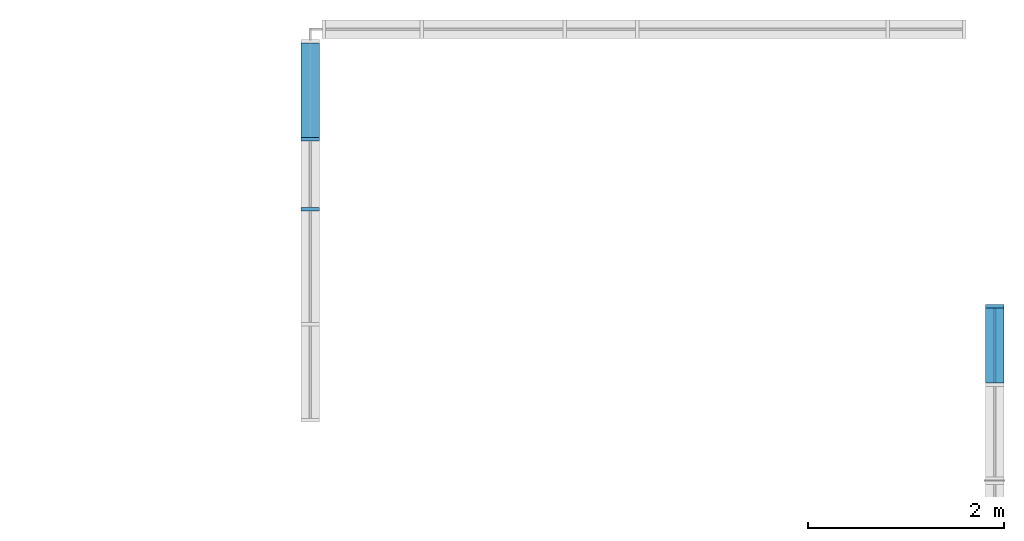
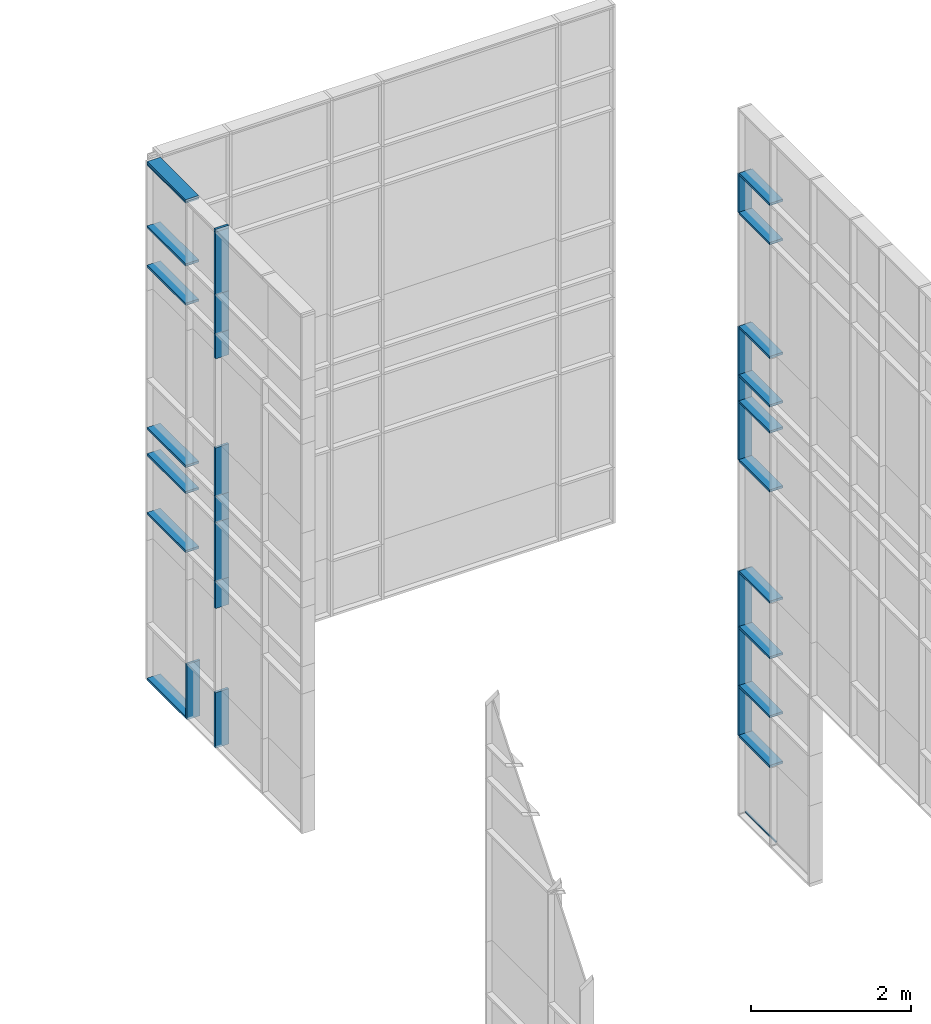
# One storey, part 18 of 73: 36 members, 2 elements without a shape of their own.
"""IFC2X3 building model written with IfcOpenShell, lengths in millimetres."""

from ifc_helpers import new_model, entity, si_unit, converted_unit, derived_unit, direction, frame, origin, origin_2d_with_axis, place, context, subcontext, project, spatial, rectangle, extrude, source, transform, mapped, material, type_object, type_shapes, element, aggregate, save


model = new_model("IFC2X3")

# Units and contexts
model_context = context("Model", 3, precision=0.01, world=origin(), true_north=direction((6.12303176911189e-17, 1.0)))
body_context = subcontext(model_context, "Body", "Model", "MODEL_VIEW")
ifc_project = project(units=[si_unit("LENGTHUNIT", "METRE", prefix="MILLI"), si_unit("AREAUNIT", "SQUARE_METRE"), si_unit("VOLUMEUNIT", "CUBIC_METRE"), converted_unit("PLANEANGLEUNIT", "DEGREE", entity("IfcRatioMeasure", 0.0174532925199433), si_unit("PLANEANGLEUNIT", "RADIAN"), dimensions=[0, 0, 0, 0, 0, 0, 0]), si_unit("MASSUNIT", "GRAM", prefix="KILO"), derived_unit("MASSDENSITYUNIT", [(si_unit("MASSUNIT", "GRAM", prefix="KILO"), 1), (si_unit("LENGTHUNIT", "METRE"), -3)]), si_unit("TIMEUNIT", "SECOND"), si_unit("FREQUENCYUNIT", "HERTZ"), si_unit("THERMODYNAMICTEMPERATUREUNIT", "DEGREE_CELSIUS"), derived_unit("THERMALTRANSMITTANCEUNIT", [(si_unit("MASSUNIT", "GRAM", prefix="KILO"), 1), (si_unit("THERMODYNAMICTEMPERATUREUNIT", "KELVIN"), -1), (si_unit("TIMEUNIT", "SECOND"), -3)]), derived_unit("VOLUMETRICFLOWRATEUNIT", [(si_unit("LENGTHUNIT", "METRE"), 3), (si_unit("TIMEUNIT", "SECOND"), -1)]), si_unit("ELECTRICCURRENTUNIT", "AMPERE"), si_unit("ELECTRICVOLTAGEUNIT", "VOLT"), si_unit("POWERUNIT", "WATT"), si_unit("FORCEUNIT", "NEWTON", prefix="KILO"), si_unit("ILLUMINANCEUNIT", "LUX"), si_unit("LUMINOUSFLUXUNIT", "LUMEN"), si_unit("LUMINOUSINTENSITYUNIT", "CANDELA"), derived_unit("USERDEFINED", [(si_unit("MASSUNIT", "GRAM", prefix="KILO"), -1), (si_unit("LENGTHUNIT", "METRE"), -2), (si_unit("TIMEUNIT", "SECOND"), 3), (si_unit("LUMINOUSFLUXUNIT", "LUMEN"), 1)]), derived_unit("LINEARVELOCITYUNIT", [(si_unit("LENGTHUNIT", "METRE"), 1), (si_unit("TIMEUNIT", "SECOND"), -1)]), si_unit("PRESSUREUNIT", "PASCAL"), derived_unit("USERDEFINED", [(si_unit("LENGTHUNIT", "METRE"), -2), (si_unit("MASSUNIT", "GRAM", prefix="KILO"), 1), (si_unit("TIMEUNIT", "SECOND"), -2)])], contexts=[model_context])

# Site, building, storey
site_placement = place(None, frame((-151.875543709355, 2715.0, 0.0)))
site = spatial("IfcSite", under=ifc_project, at=site_placement, Name="Surface", CompositionType="ELEMENT")
building_placement = place(site_placement, origin())
building = spatial("IfcBuilding", under=site, at=building_placement, CompositionType="ELEMENT")
storey_placement = place(building_placement, frame((0.0, 0.0, 6730.43000000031)))
storey = spatial("IfcBuildingStorey", under=building, at=storey_placement, Name="3 korrus", CompositionType="ELEMENT", Elevation=6730.43000000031)

# Curtain wall, members
curtain_wall_type_1 = type_object("IfcCurtainWallType", Name="Curtain Wall:Klaasfassaad", PredefinedType="NOTDEFINED")
curtain_wall_1_placement = place(storey_placement, frame((0.0, 0.0, -6730.43000000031)))
curtain_wall_1 = element("IfcCurtainWall", 1, at=curtain_wall_1_placement, inside=storey, type_object=curtain_wall_type_1, Name="Curtain Wall:Klaasfassaad", ObjectType="Curtain Wall:Klaasfassaad")
ifc_material_1 = material(Name="Steel/Aluminium")
member_type_1 = type_object("IfcMemberType", Name="35 x 190mm", PredefinedType="MEMBER")
shared_shape_1 = source(origin(), body_context, "Body", "SweptSolid", [
    extrude(rectangle(XDim=190.0, YDim=35.0, at=origin_2d_with_axis()), frame((-17.5, 0.0, -600.0), z_axis=(0.0, 0.0, 1.0), x_axis=(0.0, -1.0, 0.0)), (0.0, 0.0, 1.0), 599.999999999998),
])
type_shapes(member_type_1, [shared_shape_1])
member_1_placement = place(storey_placement, frame((38701.6162681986, 23810.5004565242, 3474.47692901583), z_axis=(0.0, 0.0, -1.0), x_axis=(0.0, 1.0, 0.0)))
member_1 = element("IfcMember", 2, at=member_1_placement, type_object=member_type_1, material=ifc_material_1, Name="Rectangular Mullion:35 x 190mm", ObjectType="35 x 190mm", context=body_context, shape_type="MappedRepresentation", body=[
    mapped(shared_shape_1, transform((0.0, 0.0, 0.0), scale=1.0)),
])
member_type_2 = type_object("IfcMemberType", Name="35 x 190mm", PredefinedType="MEMBER")
shared_shape_2 = source(origin(), body_context, "Body", "SweptSolid", [
    extrude(rectangle(XDim=190.0, YDim=35.0, at=origin_2d_with_axis()), frame((-17.5, 0.0, -740.0), z_axis=(0.0, 0.0, 1.0), x_axis=(0.0, -1.0, 0.0)), (0.0, 0.0, 1.0), 740.000000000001),
])
type_shapes(member_type_2, [shared_shape_2])
member_2_placement = place(storey_placement, frame((38701.6162681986, 23810.5004565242, 994.476929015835), z_axis=(0.0, 0.0, -1.0), x_axis=(0.0, 1.0, 0.0)))
member_2 = element("IfcMember", 3, at=member_2_placement, type_object=member_type_2, material=ifc_material_1, Name="Rectangular Mullion:35 x 190mm", ObjectType="35 x 190mm", context=body_context, shape_type="MappedRepresentation", body=[
    mapped(shared_shape_2, transform((0.0, 0.0, 0.0), scale=1.0)),
])
member_type_3 = type_object("IfcMemberType", Name="35 x 190mm", PredefinedType="MEMBER")
shared_shape_3 = source(origin(), body_context, "Body", "SweptSolid", [
    extrude(rectangle(XDim=190.0, YDim=35.0, at=origin_2d_with_axis()), frame((-17.5, 0.0, -400.0), z_axis=(0.0, 0.0, 1.0), x_axis=(0.0, -1.0, 0.0)), (0.0, 0.0, 1.0), 400.0),
])
type_shapes(member_type_3, [shared_shape_3])
member_3_placement = place(storey_placement, frame((38701.6162681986, 23810.5004565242, 594.476929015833), z_axis=(0.0, 0.0, -1.0), x_axis=(0.0, 1.0, 0.0)))
member_3 = element("IfcMember", 4, at=member_3_placement, type_object=member_type_3, material=ifc_material_1, Name="Rectangular Mullion:35 x 190mm", ObjectType="35 x 190mm", context=body_context, shape_type="MappedRepresentation", body=[
    mapped(shared_shape_3, transform((0.0, 0.0, 0.0), scale=1.0)),
])
member_type_4 = type_object("IfcMemberType", Name="35 x 190mm", PredefinedType="MEMBER")
shared_shape_4 = source(origin(), body_context, "Body", "SweptSolid", [
    extrude(rectangle(XDim=190.0, YDim=35.0, at=origin_2d_with_axis()), frame((-17.5, 0.0, -900.0), z_axis=(0.0, 0.0, 1.0), x_axis=(0.0, -1.0, 0.0)), (0.0, 0.0, 1.0), 900.000000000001),
])
type_shapes(member_type_4, [shared_shape_4])
member_4_placement = place(storey_placement, frame((38701.6162681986, 23810.5004565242, -305.523070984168), z_axis=(0.0, 0.0, -1.0), x_axis=(0.0, 1.0, 0.0)))
member_4 = element("IfcMember", 5, at=member_4_placement, type_object=member_type_4, material=ifc_material_1, Name="Rectangular Mullion:35 x 190mm", ObjectType="35 x 190mm", context=body_context, shape_type="MappedRepresentation", body=[
    mapped(shared_shape_4, transform((0.0, 0.0, 0.0), scale=1.0)),
])
member_5_placement = place(storey_placement, frame((38701.6162681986, 23810.5004565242, -3756.00226032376), z_axis=(0.0, 0.0, -1.0), x_axis=(0.0, 1.0, 0.0)))
member_5 = element("IfcMember", 6, at=member_5_placement, type_object=member_type_4, material=ifc_material_1, Name="Rectangular Mullion:35 x 190mm", ObjectType="35 x 190mm", context=body_context, shape_type="MappedRepresentation", body=[
    mapped(shared_shape_4, transform((0.0, 0.0, 0.0), scale=1.0)),
])
member_type_5 = type_object("IfcMemberType", Name="35 x 190mm", PredefinedType="MEMBER")
shared_shape_5 = source(origin(), body_context, "Body", "SweptSolid", [
    extrude(rectangle(XDim=190.0, YDim=35.0, at=origin_2d_with_axis()), frame((-17.5, 0.0, -850.159729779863), z_axis=(0.0, 0.0, 1.0), x_axis=(0.0, -1.0, 0.0)), (0.0, 0.0, 1.0), 850.159729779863),
])
type_shapes(member_type_5, [shared_shape_5])
member_6_placement = place(storey_placement, frame((38701.6162681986, 23810.5004565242, -2856.00226032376), z_axis=(0.0, 0.0, -1.0), x_axis=(0.0, 1.0, 0.0)))
member_6 = element("IfcMember", 7, at=member_6_placement, type_object=member_type_5, material=ifc_material_1, Name="Rectangular Mullion:35 x 190mm", ObjectType="35 x 190mm", context=body_context, shape_type="MappedRepresentation", body=[
    mapped(shared_shape_5, transform((0.0, 0.0, 0.0), scale=1.0)),
])
member_type_6 = type_object("IfcMemberType", Name="35 x 190mm", PredefinedType="MEMBER")
shared_shape_6 = source(origin(), body_context, "Body", "SweptSolid", [
    extrude(rectangle(XDim=190.0, YDim=35.0, at=origin_2d_with_axis()), frame((0.0, 0.0, -767.50000000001), z_axis=(0.0, 0.0, 1.0), x_axis=(0.0, -1.0, 0.0)), (0.0, 0.0, 1.0), 767.500000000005),
])
type_shapes(member_type_6, [shared_shape_6])
member_7_placement = place(storey_placement, frame((38701.6162681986, 23775.5004565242, 4074.47692901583), z_axis=(0.0, 1.0, 0.0), x_axis=(0.0, 0.0, 1.0)))
member_7 = element("IfcMember", 8, at=member_7_placement, type_object=member_type_6, material=ifc_material_1, Name="Rectangular Mullion:35 x 190mm", ObjectType="35 x 190mm", context=body_context, shape_type="MappedRepresentation", body=[
    mapped(shared_shape_6, transform((0.0, 0.0, 0.0), scale=1.0)),
])
member_type_7 = type_object("IfcMemberType", Name="35 x 190mm", PredefinedType="MEMBER")
shared_shape_7 = source(origin(), body_context, "Body", "SweptSolid", [
    extrude(rectangle(XDim=190.0, YDim=35.0, at=origin_2d_with_axis()), frame((0.0, 0.0, -767.50000000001), z_axis=(0.0, 0.0, 1.0), x_axis=(0.0, -1.0, 0.0)), (0.0, 0.0, 1.0), 767.500000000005),
])
type_shapes(member_type_7, [shared_shape_7])
member_8_placement = place(storey_placement, frame((38701.6162681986, 23775.5004565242, 3474.47692901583), z_axis=(0.0, 1.0, 0.0), x_axis=(0.0, 0.0, 1.0)))
member_8 = element("IfcMember", 9, at=member_8_placement, type_object=member_type_7, material=ifc_material_1, Name="Rectangular Mullion:35 x 190mm", ObjectType="35 x 190mm", context=body_context, shape_type="MappedRepresentation", body=[
    mapped(shared_shape_7, transform((0.0, 0.0, 0.0), scale=1.0)),
])
member_type_8 = type_object("IfcMemberType", Name="35 x 190mm", PredefinedType="MEMBER")
shared_shape_8 = source(origin(), body_context, "Body", "SweptSolid", [
    extrude(rectangle(XDim=190.0, YDim=35.0, at=origin_2d_with_axis()), frame((0.0, 0.0, -767.50000000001), z_axis=(0.0, 0.0, 1.0), x_axis=(0.0, -1.0, 0.0)), (0.0, 0.0, 1.0), 767.500000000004),
])
type_shapes(member_type_8, [shared_shape_8])
member_9_placement = place(storey_placement, frame((38701.6162681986, 23775.5004565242, 994.476929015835), z_axis=(0.0, 1.0, 0.0), x_axis=(0.0, 0.0, 1.0)))
member_9 = element("IfcMember", 10, at=member_9_placement, type_object=member_type_8, material=ifc_material_1, Name="Rectangular Mullion:35 x 190mm", ObjectType="35 x 190mm", context=body_context, shape_type="MappedRepresentation", body=[
    mapped(shared_shape_8, transform((0.0, 0.0, 0.0), scale=1.0)),
])
member_type_9 = type_object("IfcMemberType", Name="35 x 190mm", PredefinedType="MEMBER")
shared_shape_9 = source(origin(), body_context, "Body", "SweptSolid", [
    extrude(rectangle(XDim=190.0, YDim=35.0, at=origin_2d_with_axis()), frame((0.0, 0.0, -767.50000000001), z_axis=(0.0, 0.0, 1.0), x_axis=(0.0, -1.0, 0.0)), (0.0, 0.0, 1.0), 767.500000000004),
])
type_shapes(member_type_9, [shared_shape_9])
member_10_placement = place(storey_placement, frame((38701.6162681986, 23775.5004565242, 594.476929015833), z_axis=(0.0, 1.0, 0.0), x_axis=(0.0, 0.0, 1.0)))
member_10 = element("IfcMember", 11, at=member_10_placement, type_object=member_type_9, material=ifc_material_1, Name="Rectangular Mullion:35 x 190mm", ObjectType="35 x 190mm", context=body_context, shape_type="MappedRepresentation", body=[
    mapped(shared_shape_9, transform((0.0, 0.0, 0.0), scale=1.0)),
])
member_type_10 = type_object("IfcMemberType", Name="35 x 190mm", PredefinedType="MEMBER")
shared_shape_10 = source(origin(), body_context, "Body", "SweptSolid", [
    extrude(rectangle(XDim=190.0, YDim=35.0, at=origin_2d_with_axis()), frame((0.0, 0.0, -767.50000000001), z_axis=(0.0, 0.0, 1.0), x_axis=(0.0, -1.0, 0.0)), (0.0, 0.0, 1.0), 767.500000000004),
])
type_shapes(member_type_10, [shared_shape_10])
member_11_placement = place(storey_placement, frame((38701.6162681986, 23775.5004565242, -305.523070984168), z_axis=(0.0, 1.0, 0.0), x_axis=(0.0, 0.0, 1.0)))
member_11 = element("IfcMember", 12, at=member_11_placement, type_object=member_type_10, material=ifc_material_1, Name="Rectangular Mullion:35 x 190mm", ObjectType="35 x 190mm", context=body_context, shape_type="MappedRepresentation", body=[
    mapped(shared_shape_10, transform((0.0, 0.0, 0.0), scale=1.0)),
])
member_type_11 = type_object("IfcMemberType", Name="35 x 190mm", PredefinedType="MEMBER")
shared_shape_11 = source(origin(), body_context, "Body", "SweptSolid", [
    extrude(rectangle(XDim=190.0, YDim=35.0, at=origin_2d_with_axis()), frame((0.0, 0.0, -767.50000000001), z_axis=(0.0, 0.0, 1.0), x_axis=(0.0, -1.0, 0.0)), (0.0, 0.0, 1.0), 767.500000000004),
])
type_shapes(member_type_11, [shared_shape_11])
member_12_placement = place(storey_placement, frame((38701.6162681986, 23775.5004565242, -2856.00226032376), z_axis=(0.0, 1.0, 0.0), x_axis=(0.0, 0.0, 1.0)))
member_12 = element("IfcMember", 13, at=member_12_placement, type_object=member_type_11, material=ifc_material_1, Name="Rectangular Mullion:35 x 190mm", ObjectType="35 x 190mm", context=body_context, shape_type="MappedRepresentation", body=[
    mapped(shared_shape_11, transform((0.0, 0.0, 0.0), scale=1.0)),
])
member_type_12 = type_object("IfcMemberType", Name="35 x 190mm", PredefinedType="MEMBER")
shared_shape_12 = source(origin(), body_context, "Body", "SweptSolid", [
    extrude(rectangle(XDim=190.0, YDim=35.0, at=origin_2d_with_axis()), frame((0.0, 0.0, -767.500000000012), z_axis=(0.0, 0.0, 1.0), x_axis=(0.0, -1.0, 0.0)), (0.0, 0.0, 1.0), 767.500000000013),
])
type_shapes(member_type_12, [shared_shape_12])
member_13_placement = place(storey_placement, frame((38701.6162681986, 23775.5004565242, -3756.00226032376), z_axis=(0.0, 1.0, 0.0), x_axis=(0.0, 0.0, 1.0)))
member_13 = element("IfcMember", 14, at=member_13_placement, type_object=member_type_12, material=ifc_material_1, Name="Rectangular Mullion:35 x 190mm", ObjectType="35 x 190mm", context=body_context, shape_type="MappedRepresentation", body=[
    mapped(shared_shape_12, transform((0.0, 0.0, 0.0), scale=1.0)),
])
member_type_13 = type_object("IfcMemberType", Name="35 x 190mm", PredefinedType="MEMBER")
shared_shape_13 = source(origin(), body_context, "Body", "SweptSolid", [
    extrude(rectangle(XDim=190.0, YDim=35.0, at=origin_2d_with_axis()), frame((-17.5, 0.0, -760.0), z_axis=(0.0, 0.0, 1.0), x_axis=(0.0, -1.0, 0.0)), (0.0, 0.0, 1.0), 760.0),
])
type_shapes(member_type_13, [shared_shape_13])
member_14_placement = place(storey_placement, frame((38701.6162681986, 23810.5004565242, -4516.00226032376), z_axis=(0.0, 0.0, -1.0), x_axis=(0.0, 1.0, 0.0)))
member_14 = element("IfcMember", 15, at=member_14_placement, type_object=member_type_13, material=ifc_material_1, Name="Rectangular Mullion:35 x 190mm", ObjectType="35 x 190mm", context=body_context, shape_type="MappedRepresentation", body=[
    mapped(shared_shape_13, transform((0.0, 0.0, 0.0), scale=1.0)),
])
member_type_14 = type_object("IfcMemberType", Name="35 x 190mm", PredefinedType="MEMBER")
shared_shape_14 = source(origin(), body_context, "Body", "SweptSolid", [
    extrude(rectangle(XDim=190.0, YDim=35.0, at=origin_2d_with_axis()), frame((0.0, 0.0, -767.50000000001), z_axis=(0.0, 0.0, 1.0), x_axis=(0.0, -1.0, 0.0)), (0.0, 0.0, 1.0), 767.500000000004),
])
type_shapes(member_type_14, [shared_shape_14])
member_15_placement = place(storey_placement, frame((38701.6162681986, 23775.5004565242, 1734.47692901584), z_axis=(0.0, 1.0, 0.0), x_axis=(0.0, 0.0, 1.0)))
member_15 = element("IfcMember", 16, at=member_15_placement, type_object=member_type_14, material=ifc_material_1, Name="Rectangular Mullion:35 x 190mm", ObjectType="35 x 190mm", context=body_context, shape_type="MappedRepresentation", body=[
    mapped(shared_shape_14, transform((0.0, 0.0, 0.0), scale=1.0)),
])
member_type_15 = type_object("IfcMemberType", Name="35 x 190mm", PredefinedType="MEMBER")
shared_shape_15 = source(origin(), body_context, "Body", "SweptSolid", [
    extrude(rectangle(XDim=190.0, YDim=35.0, at=origin_2d_with_axis()), frame((0.0, 0.0, -767.50000000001), z_axis=(0.0, 0.0, 1.0), x_axis=(0.0, -1.0, 0.0)), (0.0, 0.0, 1.0), 767.500000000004),
])
type_shapes(member_type_15, [shared_shape_15])
member_16_placement = place(storey_placement, frame((38701.6162681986, 23775.5004565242, -2005.8425305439), z_axis=(0.0, 1.0, 0.0), x_axis=(0.0, 0.0, 1.0)))
member_16 = element("IfcMember", 17, at=member_16_placement, type_object=member_type_15, material=ifc_material_1, Name="Rectangular Mullion:35 x 190mm", ObjectType="35 x 190mm", context=body_context, shape_type="MappedRepresentation", body=[
    mapped(shared_shape_15, transform((0.0, 0.0, 0.0), scale=1.0)),
])
member_type_16 = type_object("IfcMemberType", Name="35 x 190mm", PredefinedType="MEMBER")
shared_shape_16 = source(origin(), body_context, "Body", "SweptSolid", [
    extrude(rectangle(XDim=190.0, YDim=35.0, at=origin_2d_with_axis()), frame((0.0, 0.0, -767.500000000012), z_axis=(0.0, 0.0, 1.0), x_axis=(0.0, -1.0, 0.0)), (0.0, 0.0, 1.0), 767.500000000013),
])
type_shapes(member_type_16, [shared_shape_16])
member_17_placement = place(storey_placement, frame((38701.6162681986, 23775.5004565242, -4516.00226032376), z_axis=(0.0, 1.0, 0.0), x_axis=(0.0, 0.0, 1.0)))
member_17 = element("IfcMember", 18, at=member_17_placement, type_object=member_type_16, material=ifc_material_1, Name="Rectangular Mullion:35 x 190mm", ObjectType="35 x 190mm", context=body_context, shape_type="MappedRepresentation", body=[
    mapped(shared_shape_16, transform((0.0, 0.0, 0.0), scale=1.0)),
])
ifc_material_2 = material(Name="__Uks_hele tamm")
member_type_17 = type_object("IfcMemberType", Name="20 x 20mm", PredefinedType="MEMBER")
shared_shape_17 = source(origin(), body_context, "Body", "SweptSolid", [
    extrude(rectangle(XDim=20.0, YDim=20.0, at=origin_2d_with_axis()), frame((0.0, 0.0, -767.500000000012), z_axis=(0.0, 0.0, 1.0), x_axis=(0.0, -1.0, 0.0)), (0.0, 0.0, 1.0), 767.500000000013),
])
type_shapes(member_type_17, [shared_shape_17])
member_18_placement = place(storey_placement, frame((38701.6162681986, 23775.5004565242, -5700.4299853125), z_axis=(0.0, 1.0, 0.0), x_axis=(0.0, 0.0, 1.0)))
member_18 = element("IfcMember", 19, at=member_18_placement, type_object=member_type_17, material=ifc_material_2, Name="Rectangular Mullion:20 x 20mm", ObjectType="20 x 20mm", context=body_context, shape_type="MappedRepresentation", body=[
    mapped(shared_shape_17, transform((0.0, 0.0, 0.0), scale=1.0)),
])
aggregate(curtain_wall_1, [member_1, member_2, member_3, member_4, member_6, member_5, member_7, member_8, member_9, member_10, member_11, member_12, member_13, member_14, member_15, member_16, member_17, member_18])

curtain_wall_type_2 = type_object("IfcCurtainWallType", Name="Curtain Wall:Klaasfassaad2", PredefinedType="NOTDEFINED")
curtain_wall_2_placement = place(storey_placement, frame((0.0, 0.0, -6730.43000000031)))
curtain_wall_2 = element("IfcCurtainWall", 20, at=curtain_wall_2_placement, inside=storey, type_object=curtain_wall_type_2, Name="Curtain Wall:Klaasfassaad2", ObjectType="Curtain Wall:Klaasfassaad2")
member_type_18 = type_object("IfcMemberType", Name="35 x 190mm", PredefinedType="MEMBER")
shared_shape_18 = source(origin(), body_context, "Body", "SweptSolid", [
    extrude(rectangle(XDim=190.0, YDim=35.0, at=origin_2d_with_axis()), frame((-17.5, 0.0, -965.0), z_axis=(0.0, 0.0, 1.0), x_axis=(0.0, -1.0, 0.0)), (0.0, 0.0, 1.0), 964.999999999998),
])
type_shapes(member_type_18, [shared_shape_18])
member_19_placement = place(storey_placement, frame((31707.6162682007, 25518.6813631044, -2856.00226032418), z_axis=(0.0, -1.0, 0.0), x_axis=(0.0, 0.0, -1.0)))
member_19 = element("IfcMember", 21, at=member_19_placement, type_object=member_type_18, material=ifc_material_1, Name="Rectangular Mullion:35 x 190mm", ObjectType="35 x 190mm", context=body_context, shape_type="MappedRepresentation", body=[
    mapped(shared_shape_18, transform((0.0, 0.0, 0.0), scale=1.0)),
])
member_type_19 = type_object("IfcMemberType", Name="35 x 190mm", PredefinedType="MEMBER")
shared_shape_19 = source(origin(), body_context, "Body", "SweptSolid", [
    extrude(rectangle(XDim=190.0, YDim=35.0, at=origin_2d_with_axis()), frame((0.0, 0.0, -965.0), z_axis=(0.0, 0.0, 1.0), x_axis=(0.0, -1.0, 0.0)), (0.0, 0.0, 1.0), 964.999999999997),
])
type_shapes(member_type_19, [shared_shape_19])
member_20_placement = place(storey_placement, frame((31707.6162682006, 26483.6813631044, 4074.47692901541), z_axis=(0.0, 1.0, 0.0), x_axis=(0.0, 0.0, 1.0)))
member_20 = element("IfcMember", 22, at=member_20_placement, type_object=member_type_19, material=ifc_material_1, Name="Rectangular Mullion:35 x 190mm", ObjectType="35 x 190mm", context=body_context, shape_type="MappedRepresentation", body=[
    mapped(shared_shape_19, transform((0.0, 0.0, 0.0), scale=1.0)),
])
member_type_20 = type_object("IfcMemberType", Name="35 x 190mm", PredefinedType="MEMBER")
shared_shape_20 = source(origin(), body_context, "Body", "SweptSolid", [
    extrude(rectangle(XDim=190.0, YDim=35.0, at=origin_2d_with_axis()), frame((0.0, 0.0, -965.0), z_axis=(0.0, 0.0, 1.0), x_axis=(0.0, -1.0, 0.0)), (0.0, 0.0, 1.0), 964.999999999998),
])
type_shapes(member_type_20, [shared_shape_20])
member_21_placement = place(storey_placement, frame((31707.6162682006, 26483.6813631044, 994.47692901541), z_axis=(0.0, 1.0, 0.0), x_axis=(0.0, 0.0, 1.0)))
member_21 = element("IfcMember", 23, at=member_21_placement, type_object=member_type_20, material=ifc_material_1, Name="Rectangular Mullion:35 x 190mm", ObjectType="35 x 190mm", context=body_context, shape_type="MappedRepresentation", body=[
    mapped(shared_shape_20, transform((0.0, 0.0, 0.0), scale=1.0)),
])
member_type_21 = type_object("IfcMemberType", Name="35 x 190mm", PredefinedType="MEMBER")
shared_shape_21 = source(origin(), body_context, "Body", "SweptSolid", [
    extrude(rectangle(XDim=190.0, YDim=35.0, at=origin_2d_with_axis()), frame((0.0, 0.0, -965.0), z_axis=(0.0, 0.0, 1.0), x_axis=(0.0, -1.0, 0.0)), (0.0, 0.0, 1.0), 964.999999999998),
])
type_shapes(member_type_21, [shared_shape_21])
member_22_placement = place(storey_placement, frame((31707.6162682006, 26483.6813631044, 594.476929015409), z_axis=(0.0, 1.0, 0.0), x_axis=(0.0, 0.0, 1.0)))
member_22 = element("IfcMember", 24, at=member_22_placement, type_object=member_type_21, material=ifc_material_1, Name="Rectangular Mullion:35 x 190mm", ObjectType="35 x 190mm", context=body_context, shape_type="MappedRepresentation", body=[
    mapped(shared_shape_21, transform((0.0, 0.0, 0.0), scale=1.0)),
])
member_type_22 = type_object("IfcMemberType", Name="35 x 190mm", PredefinedType="MEMBER")
shared_shape_22 = source(origin(), body_context, "Body", "SweptSolid", [
    extrude(rectangle(XDim=190.0, YDim=35.0, at=origin_2d_with_axis()), frame((0.0, 0.0, -850.159729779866), z_axis=(0.0, 0.0, 1.0), x_axis=(0.0, -1.0, 0.0)), (0.0, 0.0, 1.0), 850.159729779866),
])
type_shapes(member_type_22, [shared_shape_22])
member_23_placement = place(storey_placement, frame((31707.6162682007, 25501.1813631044, -2856.00226032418), z_axis=(0.0, 0.0, -1.0), x_axis=(0.0, 1.0, 0.0)))
member_23 = element("IfcMember", 25, at=member_23_placement, type_object=member_type_22, material=ifc_material_1, Name="Rectangular Mullion:35 x 190mm", ObjectType="35 x 190mm", context=body_context, shape_type="MappedRepresentation", body=[
    mapped(shared_shape_22, transform((0.0, 0.0, 0.0), scale=1.0)),
])
member_type_23 = type_object("IfcMemberType", Name="35 x 190mm", PredefinedType="MEMBER")
shared_shape_23 = source(origin(), body_context, "Body", "SweptSolid", [
    extrude(rectangle(XDim=190.0, YDim=35.0, at=origin_2d_with_axis()), frame((0.0, 0.0, -965.0), z_axis=(0.0, 0.0, 1.0), x_axis=(0.0, -1.0, 0.0)), (0.0, 0.0, 1.0), 964.999999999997),
])
type_shapes(member_type_23, [shared_shape_23])
member_24_placement = place(storey_placement, frame((31707.6162682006, 26483.6813631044, 5034.47692901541), z_axis=(0.0, 1.0, 0.0), x_axis=(0.0, 0.0, 1.0)))
member_24 = element("IfcMember", 26, at=member_24_placement, type_object=member_type_23, material=ifc_material_1, Name="Rectangular Mullion:35 x 190mm", ObjectType="35 x 190mm", context=body_context, shape_type="MappedRepresentation", body=[
    mapped(shared_shape_23, transform((0.0, 0.0, 0.0), scale=1.0)),
])
member_type_24 = type_object("IfcMemberType", Name="35 x 190mm", PredefinedType="MEMBER")
shared_shape_24 = source(origin(), body_context, "Body", "SweptSolid", [
    extrude(rectangle(XDim=190.0, YDim=35.0, at=origin_2d_with_axis()), frame((-17.5, 0.0, -965.0), z_axis=(0.0, 0.0, 1.0), x_axis=(0.0, -1.0, 0.0)), (0.0, 0.0, 1.0), 964.999999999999),
])
type_shapes(member_type_24, [shared_shape_24])
member_25_placement = place(storey_placement, frame((31707.6162682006, 26483.6813631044, 5074.47692901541), z_axis=(0.0, 1.0, 0.0), x_axis=(0.0, 0.0, 1.0)))
member_25 = element("IfcMember", 27, at=member_25_placement, type_object=member_type_24, material=ifc_material_1, Name="Rectangular Mullion:35 x 190mm", ObjectType="35 x 190mm", context=body_context, shape_type="MappedRepresentation", body=[
    mapped(shared_shape_24, transform((0.0, 0.0, 0.0), scale=1.0)),
])
member_type_25 = type_object("IfcMemberType", Name="35 x 190mm", PredefinedType="MEMBER")
shared_shape_25 = source(origin(), body_context, "Body", "SweptSolid", [
    extrude(rectangle(XDim=190.0, YDim=35.0, at=origin_2d_with_axis()), frame((0.0, 0.0, -965.0), z_axis=(0.0, 0.0, 1.0), x_axis=(0.0, -1.0, 0.0)), (0.0, 0.0, 1.0), 964.999999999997),
])
type_shapes(member_type_25, [shared_shape_25])
member_26_placement = place(storey_placement, frame((31707.6162682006, 26483.6813631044, 3474.47692901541), z_axis=(0.0, 1.0, 0.0), x_axis=(0.0, 0.0, 1.0)))
member_26 = element("IfcMember", 28, at=member_26_placement, type_object=member_type_25, material=ifc_material_1, Name="Rectangular Mullion:35 x 190mm", ObjectType="35 x 190mm", context=body_context, shape_type="MappedRepresentation", body=[
    mapped(shared_shape_25, transform((0.0, 0.0, 0.0), scale=1.0)),
])
member_type_26 = type_object("IfcMemberType", Name="35 x 190mm", PredefinedType="MEMBER")
shared_shape_26 = source(origin(), body_context, "Body", "SweptSolid", [
    extrude(rectangle(XDim=190.0, YDim=35.0, at=origin_2d_with_axis()), frame((0.0, 0.0, -965.0), z_axis=(0.0, 0.0, 1.0), x_axis=(0.0, -1.0, 0.0)), (0.0, 0.0, 1.0), 964.999999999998),
])
type_shapes(member_type_26, [shared_shape_26])
member_27_placement = place(storey_placement, frame((31707.6162682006, 26483.6813631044, -305.523070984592), z_axis=(0.0, 1.0, 0.0), x_axis=(0.0, 0.0, 1.0)))
member_27 = element("IfcMember", 29, at=member_27_placement, type_object=member_type_26, material=ifc_material_1, Name="Rectangular Mullion:35 x 190mm", ObjectType="35 x 190mm", context=body_context, shape_type="MappedRepresentation", body=[
    mapped(shared_shape_26, transform((0.0, 0.0, 0.0), scale=1.0)),
])
member_type_27 = type_object("IfcMemberType", Name="35 x 190mm", PredefinedType="MEMBER")
shared_shape_27 = source(origin(), body_context, "Body", "SweptSolid", [
    extrude(rectangle(XDim=190.0, YDim=35.0, at=origin_2d_with_axis()), frame((0.0, 0.0, -415.479189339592), z_axis=(0.0, 0.0, 1.0), x_axis=(0.0, -1.0, 0.0)), (0.0, 0.0, 1.0), 415.479189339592),
])
type_shapes(member_type_27, [shared_shape_27])
member_28_placement = place(storey_placement, frame((31707.6162682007, 24786.1813631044, -721.002260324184), z_axis=(0.0, 0.0, -1.0), x_axis=(0.0, 1.0, 0.0)))
member_28 = element("IfcMember", 30, at=member_28_placement, type_object=member_type_27, material=ifc_material_1, Name="Rectangular Mullion:35 x 190mm", ObjectType="35 x 190mm", context=body_context, shape_type="MappedRepresentation", body=[
    mapped(shared_shape_27, transform((0.0, 0.0, 0.0), scale=1.0)),
])
member_type_28 = type_object("IfcMemberType", Name="35 x 190mm", PredefinedType="MEMBER")
shared_shape_28 = source(origin(), body_context, "Body", "SweptSolid", [
    extrude(rectangle(XDim=190.0, YDim=35.0, at=origin_2d_with_axis()), frame((0.0, 0.0, -380.0), z_axis=(0.0, 0.0, 1.0), x_axis=(0.0, -1.0, 0.0)), (0.0, 0.0, 1.0), 380.0),
])
type_shapes(member_type_28, [shared_shape_28])
member_29_placement = place(storey_placement, frame((31707.6162682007, 24786.1813631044, 3094.47692901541), z_axis=(0.0, 0.0, -1.0), x_axis=(0.0, 1.0, 0.0)))
member_29 = element("IfcMember", 31, at=member_29_placement, type_object=member_type_28, material=ifc_material_1, Name="Rectangular Mullion:35 x 190mm", ObjectType="35 x 190mm", context=body_context, shape_type="MappedRepresentation", body=[
    mapped(shared_shape_28, transform((0.0, 0.0, 0.0), scale=1.0)),
])
member_type_29 = type_object("IfcMemberType", Name="35 x 190mm", PredefinedType="MEMBER")
shared_shape_29 = source(origin(), body_context, "Body", "SweptSolid", [
    extrude(rectangle(XDim=190.0, YDim=35.0, at=origin_2d_with_axis()), frame((0.0, 0.0, -850.159729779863), z_axis=(0.0, 0.0, 1.0), x_axis=(0.0, -1.0, 0.0)), (0.0, 0.0, 1.0), 850.159729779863),
])
type_shapes(member_type_29, [shared_shape_29])
member_30_placement = place(storey_placement, frame((31707.6162682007, 24786.1813631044, -2856.00226032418), z_axis=(0.0, 0.0, -1.0), x_axis=(0.0, 1.0, 0.0)))
member_30 = element("IfcMember", 32, at=member_30_placement, type_object=member_type_29, material=ifc_material_1, Name="Rectangular Mullion:35 x 190mm", ObjectType="35 x 190mm", context=body_context, shape_type="MappedRepresentation", body=[
    mapped(shared_shape_29, transform((0.0, 0.0, 0.0), scale=1.0)),
])
member_type_30 = type_object("IfcMemberType", Name="35 x 190mm", PredefinedType="MEMBER")
shared_shape_30 = source(origin(), body_context, "Body", "SweptSolid", [
    extrude(rectangle(XDim=190.0, YDim=35.0, at=origin_2d_with_axis()), frame((0.0, 0.0, -960.0), z_axis=(0.0, 0.0, 1.0), x_axis=(0.0, -1.0, 0.0)), (0.0, 0.0, 1.0), 960.000000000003),
])
type_shapes(member_type_30, [shared_shape_30])
member_31_placement = place(storey_placement, frame((31707.6162682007, 24786.1813631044, 4074.47692901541), z_axis=(0.0, 0.0, -1.0), x_axis=(0.0, 1.0, 0.0)))
member_31 = element("IfcMember", 33, at=member_31_placement, type_object=member_type_30, material=ifc_material_1, Name="Rectangular Mullion:35 x 190mm", ObjectType="35 x 190mm", context=body_context, shape_type="MappedRepresentation", body=[
    mapped(shared_shape_30, transform((0.0, 0.0, 0.0), scale=1.0)),
])
member_type_31 = type_object("IfcMemberType", Name="35 x 190mm", PredefinedType="MEMBER")
shared_shape_31 = source(origin(), body_context, "Body", "SweptSolid", [
    extrude(rectangle(XDim=190.0, YDim=35.0, at=origin_2d_with_axis()), frame((0.0, 0.0, -600.0), z_axis=(0.0, 0.0, 1.0), x_axis=(0.0, -1.0, 0.0)), (0.0, 0.0, 1.0), 600.000000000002),
])
type_shapes(member_type_31, [shared_shape_31])
member_32_placement = place(storey_placement, frame((31707.6162682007, 24786.1813631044, 3474.47692901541), z_axis=(0.0, 0.0, -1.0), x_axis=(0.0, 1.0, 0.0)))
member_32 = element("IfcMember", 34, at=member_32_placement, type_object=member_type_31, material=ifc_material_1, Name="Rectangular Mullion:35 x 190mm", ObjectType="35 x 190mm", context=body_context, shape_type="MappedRepresentation", body=[
    mapped(shared_shape_31, transform((0.0, 0.0, 0.0), scale=1.0)),
])
member_type_32 = type_object("IfcMemberType", Name="35 x 190mm", PredefinedType="MEMBER")
shared_shape_32 = source(origin(), body_context, "Body", "SweptSolid", [
    extrude(rectangle(XDim=190.0, YDim=35.0, at=origin_2d_with_axis()), frame((0.0, 0.0, -740.0), z_axis=(0.0, 0.0, 1.0), x_axis=(0.0, -1.0, 0.0)), (0.0, 0.0, 1.0), 740.000000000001),
])
type_shapes(member_type_32, [shared_shape_32])
member_33_placement = place(storey_placement, frame((31707.6162682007, 24786.1813631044, 994.47692901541), z_axis=(0.0, 0.0, -1.0), x_axis=(0.0, 1.0, 0.0)))
member_33 = element("IfcMember", 35, at=member_33_placement, type_object=member_type_32, material=ifc_material_1, Name="Rectangular Mullion:35 x 190mm", ObjectType="35 x 190mm", context=body_context, shape_type="MappedRepresentation", body=[
    mapped(shared_shape_32, transform((0.0, 0.0, 0.0), scale=1.0)),
])
member_type_33 = type_object("IfcMemberType", Name="35 x 190mm", PredefinedType="MEMBER")
shared_shape_33 = source(origin(), body_context, "Body", "SweptSolid", [
    extrude(rectangle(XDim=190.0, YDim=35.0, at=origin_2d_with_axis()), frame((0.0, 0.0, -400.0), z_axis=(0.0, 0.0, 1.0), x_axis=(0.0, -1.0, 0.0)), (0.0, 0.0, 1.0), 400.0),
])
type_shapes(member_type_33, [shared_shape_33])
member_34_placement = place(storey_placement, frame((31707.6162682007, 24786.1813631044, 594.476929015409), z_axis=(0.0, 0.0, -1.0), x_axis=(0.0, 1.0, 0.0)))
member_34 = element("IfcMember", 36, at=member_34_placement, type_object=member_type_33, material=ifc_material_1, Name="Rectangular Mullion:35 x 190mm", ObjectType="35 x 190mm", context=body_context, shape_type="MappedRepresentation", body=[
    mapped(shared_shape_33, transform((0.0, 0.0, 0.0), scale=1.0)),
])
member_type_34 = type_object("IfcMemberType", Name="35 x 190mm", PredefinedType="MEMBER")
shared_shape_34 = source(origin(), body_context, "Body", "SweptSolid", [
    extrude(rectangle(XDim=190.0, YDim=35.0, at=origin_2d_with_axis()), frame((0.0, 0.0, -900.0), z_axis=(0.0, 0.0, 1.0), x_axis=(0.0, -1.0, 0.0)), (0.0, 0.0, 1.0), 899.999999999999),
])
type_shapes(member_type_34, [shared_shape_34])
member_35_placement = place(storey_placement, frame((31707.6162682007, 24786.1813631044, -305.523070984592), z_axis=(0.0, 0.0, -1.0), x_axis=(0.0, 1.0, 0.0)))
member_35 = element("IfcMember", 37, at=member_35_placement, type_object=member_type_34, material=ifc_material_1, Name="Rectangular Mullion:35 x 190mm", ObjectType="35 x 190mm", context=body_context, shape_type="MappedRepresentation", body=[
    mapped(shared_shape_34, transform((0.0, 0.0, 0.0), scale=1.0)),
])
member_type_35 = type_object("IfcMemberType", Name="35 x 190mm", PredefinedType="MEMBER")
shared_shape_35 = source(origin(), body_context, "Body", "SweptSolid", [
    extrude(rectangle(XDim=190.0, YDim=35.0, at=origin_2d_with_axis()), frame((0.0, 0.0, -40.0), z_axis=(0.0, 0.0, 1.0), x_axis=(0.0, -1.0, 0.0)), (0.0, 0.0, 1.0), 39.9999999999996),
])
type_shapes(member_type_35, [shared_shape_35])
member_36_placement = place(storey_placement, frame((31707.6162682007, 24786.1813631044, 5034.47692901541), z_axis=(0.0, 0.0, -1.0), x_axis=(0.0, 1.0, 0.0)))
member_36 = element("IfcMember", 38, at=member_36_placement, type_object=member_type_35, material=ifc_material_1, Name="Rectangular Mullion:35 x 190mm", ObjectType="35 x 190mm", context=body_context, shape_type="MappedRepresentation", body=[
    mapped(shared_shape_35, transform((0.0, 0.0, 0.0), scale=1.0)),
])
aggregate(curtain_wall_2, [member_19, member_20, member_26, member_21, member_22, member_27, member_23, member_24, member_25, member_30, member_31, member_32, member_33, member_34, member_35, member_36, member_28, member_29])

save(model, "model.ifc")
